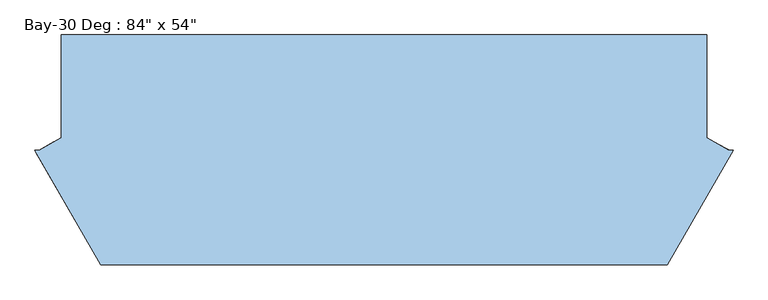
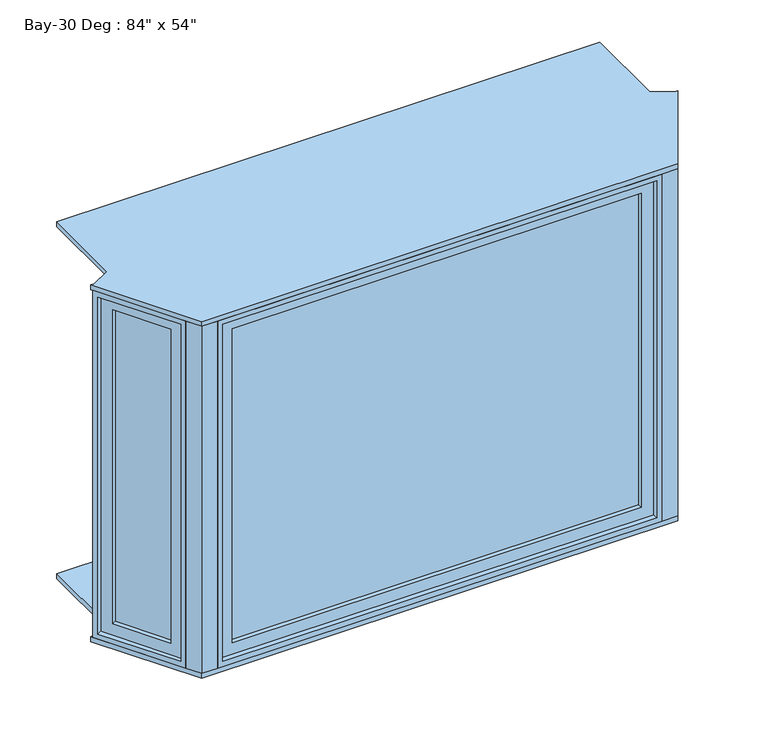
"""IFC4 building model written with IfcOpenShell, lengths in millimetres: window geometry."""

from ifc_helpers import new_model, si_unit, frame, origin, place, context, project, spatial, polyline, outline, extrude, faceted_brep, source, transform, mapped, element, save


def window_7fb523db(model_context):
    return source(origin(), model_context, "Body", "SolidModel", [
        extrude(outline(polyline([(-887.2967258, -398.2513467), (-898.2859818, -404.6017566), (-1002.4671763, -219.3984341), (-991.3328488, -213.0480242), (-887.2967258, -398.2513467)])), frame((0.0, 0.0, 844.55), z_axis=(0.0, 0.0, 1.0), x_axis=(1.0, 0.0, 0.0)), (0.0, 0.0, 1.0), 1206.5),
        faceted_brep([(-999.4704504, -166.6434337, 800.1), (-851.7455625, -429.0652719, 800.1), (-890.2349709, -451.2871422, 800.1), (-1037.8348882, -188.7931522, 800.1), (-999.4704504, -166.6434337, 2095.5), (-1037.8348882, -188.7931522, 2095.5), (-890.2349709, -451.2871422, 2095.5), (-912.0225519, -412.539769, 2051.05), (-912.0225519, -412.539769, 844.55), (-1016.2162171, -227.2401332, 844.55), (-1016.2162171, -227.2401332, 2051.05), (-851.7455625, -429.0652719, 2095.5), (-977.7189028, -205.2833758, 2051.05), (-977.7189028, -205.2833758, 844.55), (-873.5601557, -390.3133342, 844.55), (-873.5601557, -390.3133342, 2051.05)], [[[0, 1, 2, 3]], [[4, 0, 3, 5]], [[5, 3, 2, 6], [7, 8, 9, 10]], [[6, 2, 1, 11]], [[11, 1, 0, 4], [12, 13, 14, 15]], [[15, 14, 8, 7]], [[9, 8, 14, 13]], [[10, 9, 13, 12]], [[4, 5, 6, 11]], [[7, 10, 12, 15]]]),
        extrude(outline(polyline([(881.2805271, -402.2073869), (993.7831258, -207.3471699), (1004.8421988, -213.5922935), (892.2790497, -408.5573869), (881.2805271, -402.2073869)])), frame((0.0, 0.0, 844.55), z_axis=(0.0, 0.0, 1.0), x_axis=(1.0, 0.0, 0.0)), (0.0, 0.0, 1.0), 1206.5),
        faceted_brep([(848.4823738, -427.2654548, 800.1), (998.8412405, -166.8362582, 800.1), (1037.5479962, -188.6941908, 800.1), (886.977203, -449.4904548, 800.1), (848.4823738, -427.2654548, 2095.5), (886.977203, -449.4904548, 2095.5), (1037.5479962, -188.6941908, 2095.5), (1018.6660402, -221.398698, 2051.05), (1018.6660402, -221.398698, 844.55), (906.027203, -416.4948869, 844.55), (906.027203, -416.4948869, 2051.05), (998.8412405, -166.8362582, 2095.5), (867.5323738, -394.2698869, 2051.05), (867.5323738, -394.2698869, 844.55), (979.9592845, -199.5407654, 844.55), (979.9592845, -199.5407654, 2051.05)], [[[0, 1, 2, 3]], [[4, 0, 3, 5]], [[5, 3, 2, 6], [7, 8, 9, 10]], [[6, 2, 1, 11]], [[11, 1, 0, 4], [12, 13, 14, 15]], [[15, 14, 8, 7]], [[14, 13, 9, 8]], [[10, 9, 13, 12]], [[4, 5, 6, 11]], [[12, 15, 7, 10]]]),
        faceted_brep([(-894.0594169, -475.4922324, 781.05), (-1063.7201827, -181.631166, 781.05), (-1008.599634, -150.4261453, 781.05), (-842.4001218, -445.6667245, 781.05), (-894.0594169, -475.4922324, 2114.55), (-842.4001218, -445.6667245, 2114.55), (-1008.599634, -150.4261453, 2114.55), (-999.4704504, -166.6434337, 2095.5), (-999.4704504, -166.6434337, 800.1), (-851.7455625, -429.0652719, 800.1), (-851.7455625, -429.0652719, 2095.5), (-1063.7201827, -181.631166, 2114.55), (-903.5844169, -458.9944485, 2095.5), (-903.5844169, -458.9944485, 800.1), (-1054.1476281, -198.211317, 800.1), (-1054.1476281, -198.211317, 2095.5)], [[[0, 1, 2, 3]], [[4, 0, 3, 5]], [[5, 3, 2, 6], [7, 8, 9, 10]], [[6, 2, 1, 11]], [[11, 1, 0, 4], [12, 13, 14, 15]], [[15, 14, 8, 7]], [[14, 13, 9, 8]], [[10, 9, 13, 12]], [[4, 5, 6, 11]], [[12, 15, 7, 10]]]),
        faceted_brep([(1063.6562069, -181.5734434, 781.05), (893.9499869, -475.5132387, 781.05), (838.9573738, -443.7632387, 781.05), (1008.3948745, -150.2888788, 781.05), (1063.6562069, -181.5734434, 2114.55), (1008.3948745, -150.2888788, 2114.55), (838.9573738, -443.7632387, 2114.55), (848.4823738, -427.2654548, 2095.5), (848.4823738, -427.2654548, 800.1), (998.8412405, -166.8362582, 800.1), (998.8412405, -166.8362582, 2095.5), (893.9499869, -475.5132387, 2114.55), (1054.1366058, -198.0618762, 2095.5), (1054.1366058, -198.0618762, 800.1), (903.4749869, -459.0154548, 800.1), (903.4749869, -459.0154548, 2095.5)], [[[0, 1, 2, 3]], [[4, 0, 3, 5]], [[5, 3, 2, 6], [7, 8, 9, 10]], [[6, 2, 1, 11]], [[11, 1, 0, 4], [12, 13, 14, 15]], [[9, 8, 14, 13]], [[15, 14, 8, 7]], [[10, 9, 13, 12]], [[4, 5, 6, 11]], [[7, 10, 12, 15]]]),
        extrude(outline(polyline([(743.9353284, -476.8453125), (743.9353284, -489.6227448), (-744.03263, -489.6227448), (-744.03263, -476.8453125), (743.9353284, -476.8453125)])), frame((0.0, 0.0, 844.55), z_axis=(0.0, 0.0, 1.0), x_axis=(1.0, 0.0, 0.0)), (0.0, 0.0, 1.0), 1206.5),
        extrude(outline(polyline([(2095.5, -788.48263), (800.1, -788.48263), (800.1, 788.3853284), (2095.5, 788.3853284), (2095.5, -788.48263)]), holes=[polyline([(2051.05, -744.03263), (2051.05, 743.9353284), (844.55, 743.9353284), (844.55, -744.03263), (2051.05, -744.03263)])]), frame((0.0, -506.4125, 0.0), z_axis=(0.0, 1.0, 0.0), x_axis=(0.0, 0.0, 1.0)), (0.0, 0.0, 1.0), 44.45),
        extrude(outline(polyline([(2114.55, -807.53263), (781.05, -807.53263), (781.05, 807.4353284), (2114.55, 807.4353284), (2114.55, -807.53263)]), holes=[polyline([(2095.5, -788.48263), (2095.5, 788.3853284), (800.1, 788.3853284), (800.1, -788.48263), (2095.5, -788.48263)])]), frame((0.0, -525.4625, 0.0), z_axis=(0.0, 1.0, 0.0), x_axis=(0.0, 0.0, 1.0)), (0.0, 0.0, 1.0), 63.5),
        extrude(outline(polyline([(-807.5326299, -525.4625), (-865.2090695, -525.4625), (-894.0594169, -475.4922324), (-817.0697581, -431.0422321), (-813.8826299, -436.5625), (-807.5326299, -436.5625), (-807.5326299, -525.4625)])), frame((0.0, 0.0, 781.05), z_axis=(0.0, 0.0, 1.0), x_axis=(1.0, 0.0, 0.0)), (0.0, 0.0, 1.0), 1333.5),
        extrude(outline(polyline([(893.9499869, -475.5132387), (865.1117675, -525.4625), (807.4353284, -525.4625), (807.4353284, -436.5625), (813.7853284, -436.5625), (816.9603284, -431.0632387), (893.9499869, -475.5132387)])), frame((0.0, 0.0, 781.05), z_axis=(0.0, 0.0, 1.0), x_axis=(1.0, 0.0, 0.0)), (0.0, 0.0, 1.0), 1333.5),
        extrude(outline(polyline([(-986.848811, 176.2125), (986.751509, 176.2125), (986.751509, -138.0361292), (1054.1865889, -176.2125), (1066.751349, -176.2125), (865.1117675, -525.4625), (-865.2090695, -525.4625), (-1066.848651, -176.2125), (-1054.148651, -176.2125), (-986.848811, -138.1125), (-986.848811, 176.2125)])), frame((0.0, 0.0, 762.0), z_axis=(0.0, 0.0, 1.0), x_axis=(1.0, 0.0, 0.0)), (0.0, 0.0, 1.0), 19.05),
        extrude(outline(polyline([(-986.848811, 176.2125), (986.751509, 176.2125), (986.751509, -138.0361292), (1054.1865889, -176.2125), (1066.751349, -176.2125), (865.1117675, -525.4625), (-865.2090695, -525.4625), (-1066.848651, -176.2125), (-1054.148651, -176.2125), (-986.848811, -138.1125), (-986.848811, 176.2125)])), frame((0.0, 0.0, 2114.55), z_axis=(0.0, 0.0, 1.0), x_axis=(1.0, 0.0, 0.0)), (0.0, 0.0, 1.0), 19.05),
    ])


if __name__ == "__main__":
    model = new_model("IFC4")
    model_context = context("Model", 3, world=origin())
    ifc_project = project(units=[si_unit("LENGTHUNIT", "METRE", prefix="MILLI")], contexts=[model_context])
    site = spatial("IfcSite", under=ifc_project)
    building = spatial("IfcBuilding", under=site)
    placement = place(None, origin())
    window_shape = window_7fb523db(model_context)
    element("IfcWindow", 1, ObjectType="Bay-30 Deg : 84\" x 54\"", at=placement, inside=building, context=model_context, shape_type="MappedRepresentation", body=[
        mapped(window_shape, transform((0.0, 0.0, 0.0), x_axis=(1.0, 0.0, 0.0), y_axis=(0.0, 1.0, 0.0), z_axis=(0.0, 0.0, 1.0))),
    ])
    save(model, "model.ifc")
